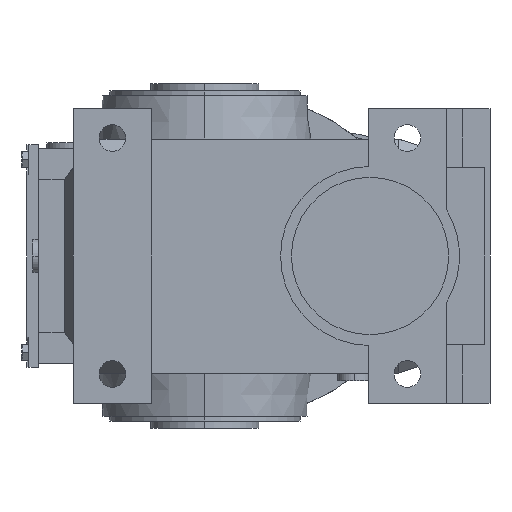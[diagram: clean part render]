
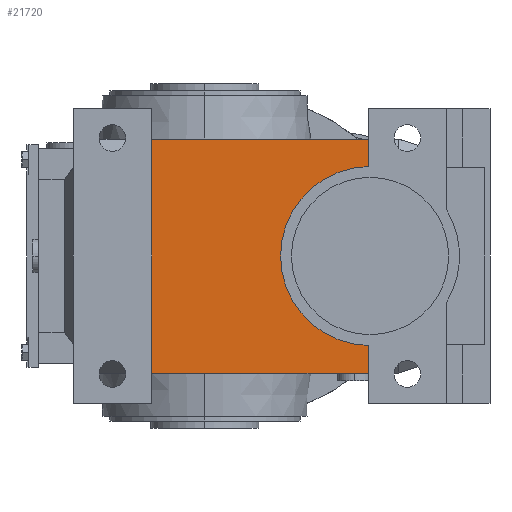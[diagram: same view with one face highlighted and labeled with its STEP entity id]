
A CAD part, left-side view. The second image highlights one B-rep face of the part: STEP entity #21720.
In plain terms, the highlighted planar face has unit normal (-1, 0, 0) as drawn and (0, 0, -1) by its records, which use the part's own axes.
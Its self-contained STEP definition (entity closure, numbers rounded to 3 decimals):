
#10310=CARTESIAN_POINT('',(177.,-65.5,-134.));
#10320=DIRECTION('',(-1.,0.,0.));
#10330=VECTOR('',#10320,1.);
#10340=LINE('',#10310,#10330);
#10350=CARTESIAN_POINT('',(148.5,-65.5,-134.));
#10360=VERTEX_POINT('',#10350);
#10370=CARTESIAN_POINT('',(134.489,-65.5,-134.));
#10380=VERTEX_POINT('',#10370);
#10390=EDGE_CURVE('',#10360,#10380,#10340,.T.);
#16880=CARTESIAN_POINT('',(29.5,44.5,-134.));
#16890=VERTEX_POINT('',#16880);
#16920=CARTESIAN_POINT('',(177.,44.5,-134.));
#16930=DIRECTION('',(-1.,0.,0.));
#16940=VECTOR('',#16930,1.);
#16950=LINE('',#16920,#16940);
#16960=CARTESIAN_POINT('',(148.5,44.5,-134.));
#16970=VERTEX_POINT('',#16960);
#16980=EDGE_CURVE('',#16970,#16890,#16950,.T.);
#21340=CARTESIAN_POINT('',(89.,-124.5,-134.));
#21350=DIRECTION('',(0.,0.,-1.));
#21360=DIRECTION('',(0.,1.,0.));
#21370=AXIS2_PLACEMENT_3D('',#21340,#21350,#21360);
#21380=PLANE('',#21370);
#21390=ORIENTED_EDGE('',*,*,#10390,.T.);
#21400=CARTESIAN_POINT('',(148.5,0.,-134.));
#21410=DIRECTION('',(0.,-1.,0.));
#21420=VECTOR('',#21410,1.);
#21430=LINE('',#21400,#21420);
#21440=EDGE_CURVE('',#16970,#10360,#21430,.T.);
#21450=ORIENTED_EDGE('',*,*,#21440,.T.);
#21460=ORIENTED_EDGE('',*,*,#16980,.F.);
#21470=CARTESIAN_POINT('',(29.5,0.,-134.));
#21480=DIRECTION('',(0.,-1.,0.));
#21490=VECTOR('',#21480,1.);
#21500=LINE('',#21470,#21490);
#21510=CARTESIAN_POINT('',(29.5,-65.5,-134.));
#21520=VERTEX_POINT('',#21510);
#21530=EDGE_CURVE('',#16890,#21520,#21500,.T.);
#21540=ORIENTED_EDGE('',*,*,#21530,.F.);
#21550=CARTESIAN_POINT('',(1.,-65.5,-134.));
#21560=DIRECTION('',(1.,0.,0.));
#21570=VECTOR('',#21560,1.);
#21580=LINE('',#21550,#21570);
#21590=CARTESIAN_POINT('',(43.511,-65.5,-134.));
#21600=VERTEX_POINT('',#21590);
#21610=EDGE_CURVE('',#21520,#21600,#21580,.T.);
#21620=ORIENTED_EDGE('',*,*,#21610,.F.);
#21630=CARTESIAN_POINT('',(89.,-66.5,-134.));
#21640=DIRECTION('',(0.,0.,-1.));
#21650=DIRECTION('',(0.,-1.,0.));
#21660=AXIS2_PLACEMENT_3D('',#21630,#21640,#21650);
#21670=CIRCLE('',#21660,45.5);
#21680=EDGE_CURVE('',#21600,#10380,#21670,.T.);
#21690=ORIENTED_EDGE('',*,*,#21680,.F.);
#21700=EDGE_LOOP('',(#21690,#21620,#21540,#21460,#21450,#21390));
#21710=FACE_OUTER_BOUND('',#21700,.T.);
#21720=ADVANCED_FACE('',(#21710),#21380,.T.);
